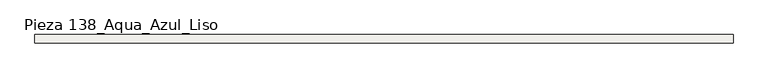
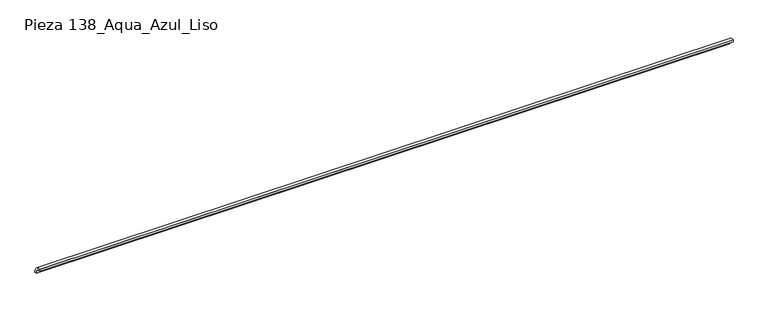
"""IFC4 building model written with IfcOpenShell, lengths in millimetres: slab geometry, ROSA GRES_138 : Pieza 138_Aqua_Azul_Liso."""

from ifc_helpers import new_model, si_unit, point, frame, frame_2d, origin, origin_2d, place, context, project, spatial, polyline, circle_curve, trimmed, segment, composite_curve, outline, extrude, source, transform, mapped, element, save


def pieza_138_aqua_azul_liso_958fb2f0(model_context):
    return source(origin(), model_context, "Body", "SweptSolid", [
        extrude(outline(composite_curve([segment(trimmed(circle_curve(origin_2d(), 40.0), [point((0.0, 40.0))], [point((40.0, 0.0))], False, "CARTESIAN"), True, "CONTINUOUS"), segment(polyline([(40.0, 0.0), (30.0265886, 0.0)]), True, "CONTINUOUS"), segment(trimmed(circle_curve(frame_2d((0.0044453, 0.0044453)), 30.0221435), [point((30.0265886, 0.0))], [point((0.0, 30.0265886))], True, "CARTESIAN"), True, "CONTINUOUS"), segment(polyline([(0.0, 30.0265886), (0.0, 40.0)]), True, "CONTINUOUS")], self_intersect=False)), frame((0.0, 0.0, 0.0), z_axis=(1.0, 0.0, 0.0), x_axis=(0.0, 1.0, 0.0)), (0.0, 0.0, 1.0), 3405.2366128),
    ])


if __name__ == "__main__":
    model = new_model("IFC4")
    model_context = context("Model", 3, world=origin())
    ifc_project = project(units=[si_unit("LENGTHUNIT", "METRE", prefix="MILLI")], contexts=[model_context])
    site = spatial("IfcSite", under=ifc_project)
    building = spatial("IfcBuilding", under=site)
    placement = place(None, origin())
    pieza_138_aqua_azul_liso_shape = pieza_138_aqua_azul_liso_958fb2f0(model_context)
    element("IfcSlab", 1, ObjectType="ROSA GRES_138 : Pieza 138_Aqua_Azul_Liso", at=placement, inside=building, context=model_context, shape_type="MappedRepresentation", body=[
        mapped(pieza_138_aqua_azul_liso_shape, transform((0.0, 0.0, 0.0), x_axis=(1.0, 0.0, 0.0), y_axis=(0.0, 1.0, 0.0), z_axis=(0.0, 0.0, 1.0))),
    ])
    save(model, "model.ifc")
